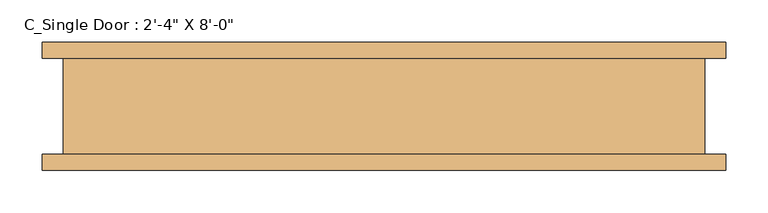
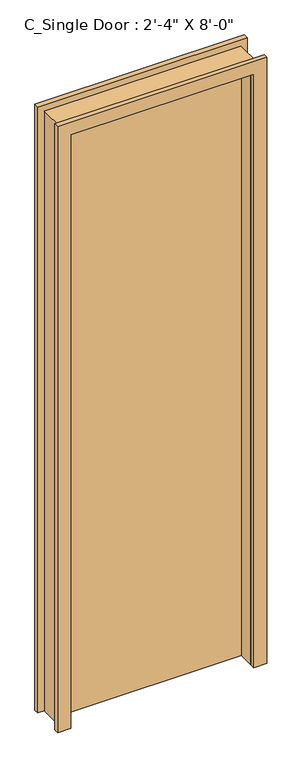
"""IFC4 building model written with IfcOpenShell, lengths in millimetres: door geometry."""

from ifc_helpers import new_model, si_unit, frame, origin, origin_with_axes, place, context, project, spatial, polyline, outline, extrude, source, transform, mapped, element, save


def door_2f67bbe1(model_context):
    return source(origin(), model_context, "Body", "SweptSolid", [
        extrude(outline(polyline([(355.6, 57.15), (355.6, 6.35), (-355.6, 6.35), (-355.6, 57.15), (355.6, 57.15)])), origin_with_axes(), (0.0, 0.0, 1.0), 2438.4),
        extrude(outline(polyline([(2438.4, -355.6), (2438.4, 355.6), (0.0, 355.6), (0.0, 406.4), (2489.2, 406.4), (2489.2, -406.4), (0.0, -406.4), (0.0, -355.6), (2438.4, -355.6)])), frame((0.0, 57.15, 0.0), z_axis=(0.0, 1.0, 0.0), x_axis=(0.0, 0.0, 1.0)), (0.0, 0.0, 1.0), 19.05),
        extrude(outline(polyline([(2438.4, -355.6), (2438.4, 355.6), (0.0, 355.6), (0.0, 406.4), (2489.2, 406.4), (2489.2, -406.4), (0.0, -406.4), (0.0, -355.6), (2438.4, -355.6)])), frame((0.0, -76.2, 0.0), z_axis=(0.0, 1.0, 0.0), x_axis=(0.0, 0.0, 1.0)), (0.0, 0.0, 1.0), 19.05),
        extrude(outline(polyline([(0.0, -355.6), (2438.4, -355.6), (2438.4, 355.6), (0.0, 355.6), (0.0, 381.0), (2463.8, 381.0), (2463.8, -381.0), (0.0, -381.0), (0.0, -355.6)])), frame((0.0, -57.15, 0.0), z_axis=(0.0, 1.0, 0.0), x_axis=(0.0, 0.0, 1.0)), (0.0, 0.0, 1.0), 114.3),
    ])


if __name__ == "__main__":
    model = new_model("IFC4")
    model_context = context("Model", 3, world=origin())
    ifc_project = project(units=[si_unit("LENGTHUNIT", "METRE", prefix="MILLI")], contexts=[model_context])
    site = spatial("IfcSite", under=ifc_project)
    building = spatial("IfcBuilding", under=site)
    placement = place(None, origin())
    door_shape = door_2f67bbe1(model_context)
    element("IfcDoor", 1, ObjectType="C_Single Door : 2'-4\" X 8'-0\"", at=placement, inside=building, context=model_context, shape_type="MappedRepresentation", body=[
        mapped(door_shape, transform((0.0, 0.0, 0.0), x_axis=(1.0, 0.0, 0.0), y_axis=(0.0, 1.0, 0.0), z_axis=(0.0, 0.0, 1.0))),
    ])
    save(model, "model.ifc")
